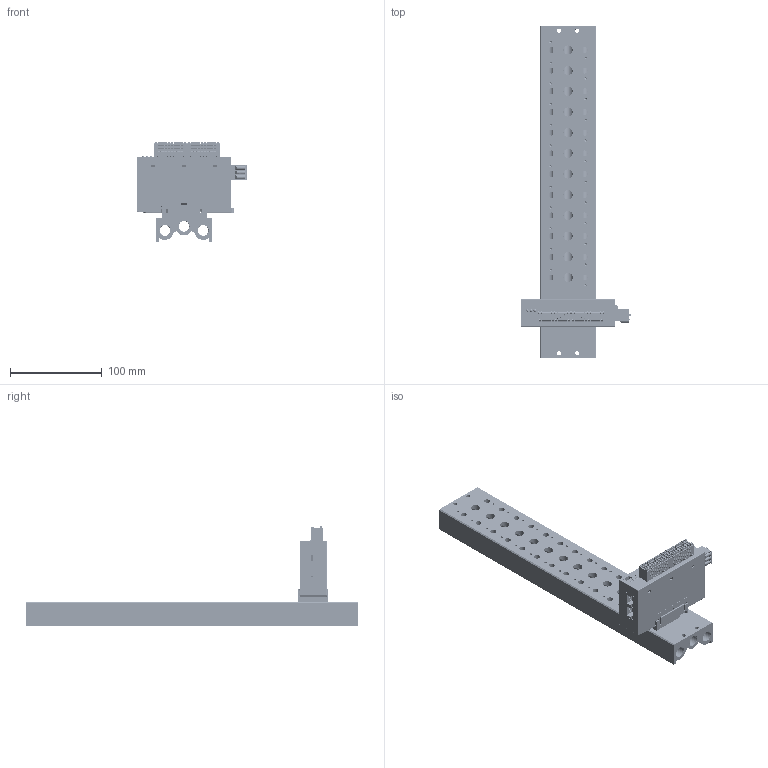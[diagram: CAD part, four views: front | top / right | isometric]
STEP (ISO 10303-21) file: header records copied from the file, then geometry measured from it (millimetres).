
FILE_DESCRIPTION(/* description */ (''),/* implementation_level */ '2;1');
FILE_NAME(/* name */ '',/* time_stamp */ '2025-10-09T16:50:18+08:00',/* author */ (''),/* organization */ (''),/* preprocessor_version */ 'ST-DEVELOPER v14',/* originating_system */ 'SIEMENS PLM Software NX 8.0',/* authorisation */ '');
FILE_SCHEMA (('AP203_CONFIGURATION_CONTROLLED_3D_DESIGN_OF_MECHANICAL_PARTS_AND_ASSEMBLIES_MIM_LF { 1 0 10303 403 2 1 2}'));
Products named in the file (1): DELL3E5857E9udqn
Bounding box: 119.8 x 361 x 108.48 mm (x, y, z)
Volume: 528550.9 mm3; surface area: 172059.5 mm2
Topology: 2 solids, 228 shells, 9777 faces, 25889 edges, 16852 vertices
Faces by surface type: plane 6400, cylinder 2284, torus 336, bspline 335, cone 237, sphere 95, extrusion 90
Full cylindrical faces by diameter (mm): 0.18 x2, 2.5 x29, 3.05 x40, 3.3 x3, 3.5 x4, 4 x3, 4.5 x4, 6 x4, 6.5 x24, 10 x12, 11.492 x1, 11.5 x3, 11.8 x6
Entity records: 322266 total; most frequent: CARTESIAN_POINT 81748, ORIENTED_EDGE 50578, DIRECTION 48127, EDGE_CURVE 25289, VECTOR 18073, LINE 17983, VERTEX_POINT 16697, AXIS2_PLACEMENT_3D 15027
